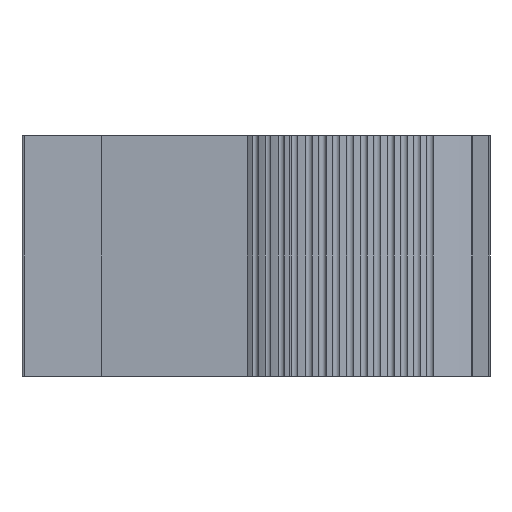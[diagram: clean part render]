
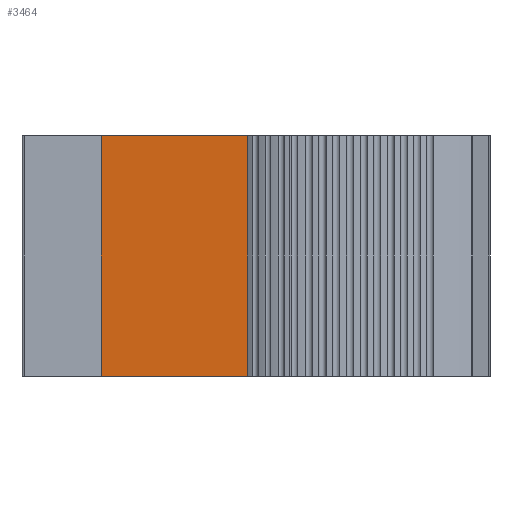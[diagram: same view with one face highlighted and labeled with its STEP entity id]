
A CAD part, front view. The second image highlights one B-rep face of the part: STEP entity #3464.
In plain terms, the highlighted planar face has unit normal (-0.074, -0.997, 0).
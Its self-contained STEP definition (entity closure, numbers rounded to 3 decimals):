
#169=DIRECTION('',(0.997,-0.074,0.));
#170=VECTOR('',#169,18.415);
#171=CARTESIAN_POINT('',(-30.22,15.496,-14.976));
#172=LINE('',#171,#170);
#873=DIRECTION('',(0.,0.,-1.));
#874=VECTOR('',#873,29.952);
#875=CARTESIAN_POINT('',(-30.22,15.496,14.976));
#876=LINE('',#875,#874);
#887=DIRECTION('',(0.,0.,1.));
#888=VECTOR('',#887,29.952);
#889=CARTESIAN_POINT('',(-11.856,14.135,-14.976));
#890=LINE('',#889,#888);
#910=DIRECTION('',(-0.997,0.074,0.));
#911=VECTOR('',#910,18.415);
#912=CARTESIAN_POINT('',(-11.856,14.135,14.976));
#913=LINE('',#912,#911);
#2600=CARTESIAN_POINT('',(-30.22,15.496,-14.976));
#2602=VERTEX_POINT('',#2600);
#2603=CARTESIAN_POINT('',(-11.856,14.135,-14.976));
#2604=VERTEX_POINT('',#2603);
#2777=CARTESIAN_POINT('',(-30.22,15.496,14.976));
#2778=VERTEX_POINT('',#2777);
#2781=CARTESIAN_POINT('',(-11.856,14.135,14.976));
#2782=VERTEX_POINT('',#2781);
#3451=CARTESIAN_POINT('',(-30.22,15.496,-14.976));
#3452=DIRECTION('',(-0.074,-0.997,0.));
#3453=DIRECTION('',(0.997,-0.074,0.));
#3454=AXIS2_PLACEMENT_3D('',#3451,#3452,#3453);
#3455=PLANE('',#3454);
#3457=ORIENTED_EDGE('',*,*,#3456,.F.);
#3458=ORIENTED_EDGE('',*,*,#3269,.F.);
#3459=ORIENTED_EDGE('',*,*,#3441,.F.);
#3461=ORIENTED_EDGE('',*,*,#3460,.F.);
#3462=EDGE_LOOP('',(#3457,#3458,#3459,#3461));
#3463=FACE_OUTER_BOUND('',#3462,.F.);
#3269=EDGE_CURVE('',#2602,#2604,#172,.T.);
#3441=EDGE_CURVE('',#2778,#2602,#876,.T.);
#3456=EDGE_CURVE('',#2604,#2782,#890,.T.);
#3460=EDGE_CURVE('',#2782,#2778,#913,.T.);
#3464=ADVANCED_FACE('',(#3463),#3455,.T.);
